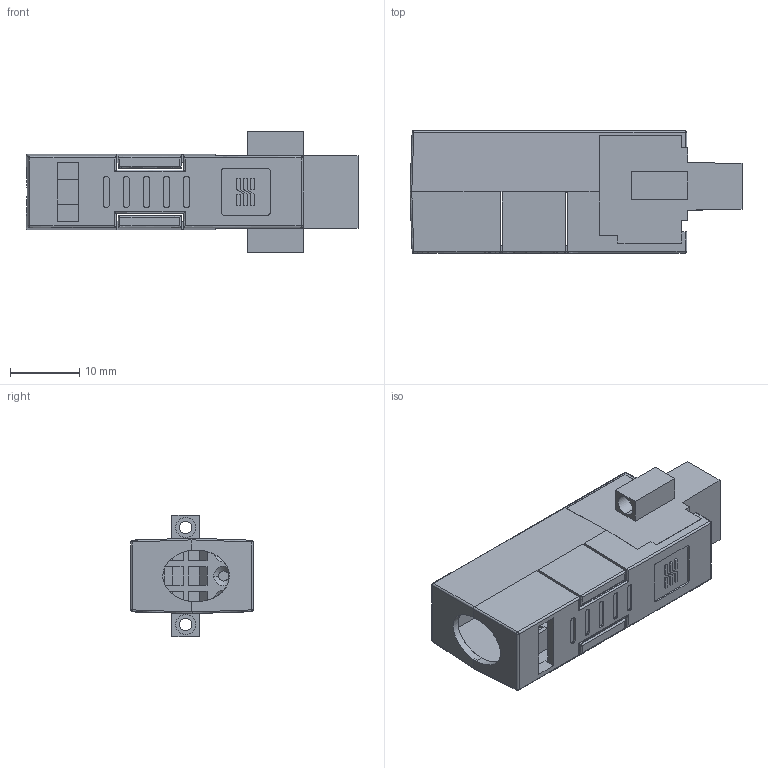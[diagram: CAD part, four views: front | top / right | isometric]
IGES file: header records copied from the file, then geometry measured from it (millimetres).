
Start section:  PTC IGES file: conn_crio_6_pos_weid_tb.igs
Global section: file name: conn_crio_6_pos_weid_tb.igs; native system: Pro/ENGINEER by Parametric Technology Corporation; preprocessor: 2006080; author: chrisj; organization: Unknown; date: 070125.114401; units: inch
Bounding box: 47.9 x 17.65 x 17.5 mm (x, y, z)
Surface area: 5026 mm2 (no closed solid volume)
Topology: 0 solids, 0 shells, 474 faces, 2430 edges, 2430 vertices
Faces by surface type: bspline 310, revolution 164
